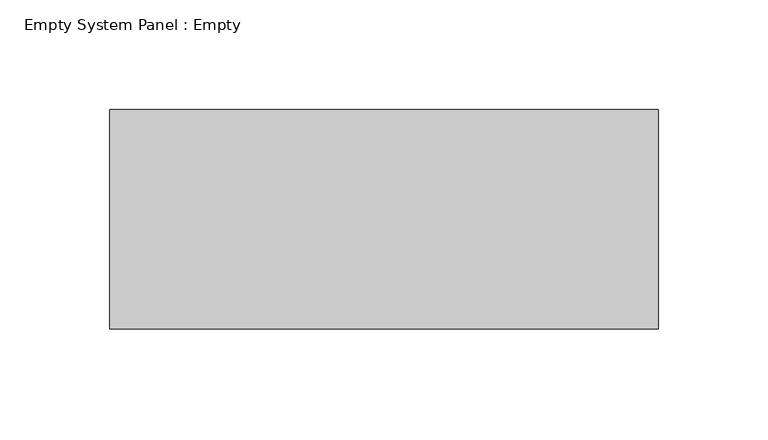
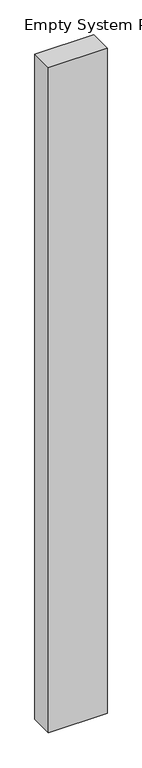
"""IFC4 building model written with IfcOpenShell, lengths in millimetres: plate geometry, Empty System Panel : Empty."""

from ifc_helpers import new_model, si_unit, origin, origin_with_axes, place, context, project, spatial, polyline, outline, extrude, source, transform, mapped, element, save


def empty_system_panel_empty_de0951d3(model_context):
    return source(origin(), model_context, "Body", "SweptSolid", [
        extrude(outline(polyline([(125.0, -50.0), (-125.0, -50.0), (-125.0, 50.0), (125.0, 50.0), (125.0, -50.0)])), origin_with_axes(), (0.0, 0.0, 1.0), 3000.0),
    ])


if __name__ == "__main__":
    model = new_model("IFC4")
    model_context = context("Model", 3, world=origin())
    ifc_project = project(units=[si_unit("LENGTHUNIT", "METRE", prefix="MILLI")], contexts=[model_context])
    site = spatial("IfcSite", under=ifc_project)
    building = spatial("IfcBuilding", under=site)
    placement = place(None, origin())
    empty_system_panel_empty_shape = empty_system_panel_empty_de0951d3(model_context)
    element("IfcPlate", 1, ObjectType="Empty System Panel : Empty", at=placement, inside=building, context=model_context, shape_type="MappedRepresentation", body=[
        mapped(empty_system_panel_empty_shape, transform((0.0, 0.0, 0.0), x_axis=(1.0, 0.0, 0.0), y_axis=(0.0, 1.0, 0.0), z_axis=(0.0, 0.0, 1.0))),
    ])
    save(model, "model.ifc")
